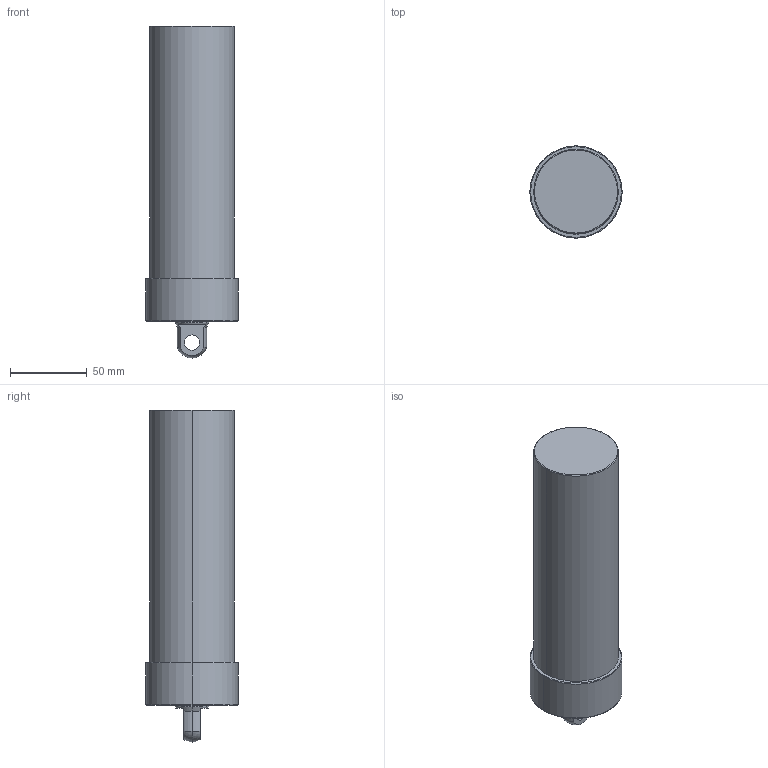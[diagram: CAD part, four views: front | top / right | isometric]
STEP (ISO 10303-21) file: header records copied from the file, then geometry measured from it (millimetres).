
FILE_DESCRIPTION (( 'STEP AP203' ), '1' );
FILE_NAME ('CLLU-055GP-135.STEP', '2020-01-06T07:47:16', ( '' ), ( '' ), 'SwSTEP 2.0', 'SolidWorks 2015', '' );
FILE_SCHEMA (( 'CONFIG_CONTROL_DESIGN' ));
Length unit declared in the file: millimetre
Products named in the file (1): CLLU-055GP-135
Bounding box: 60 x 60 x 216 mm (x, y, z)
Volume: 471033.4 mm3; surface area: 41590.9 mm2
Topology: 1 solids, 1 shells, 58 faces, 131 edges, 75 vertices
Faces by surface type: cylinder 23, cone 18, plane 9, torus 6, sphere 2
Entity records: 1658 total; most frequent: DIRECTION 311, CARTESIAN_POINT 269, ORIENTED_EDGE 246, AXIS2_PLACEMENT_3D 133, EDGE_CURVE 123, VERTEX_POINT 75, CIRCLE 74, EDGE_LOOP 68
